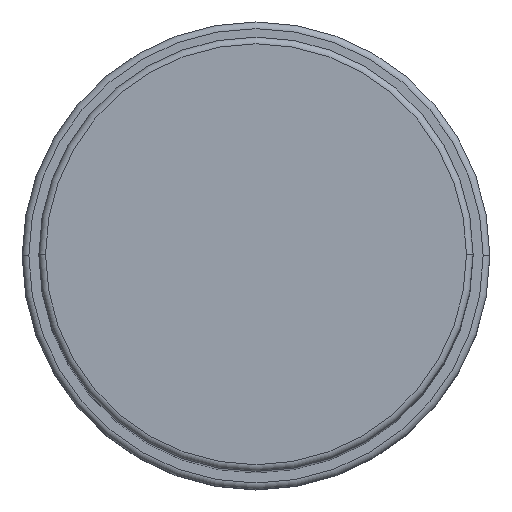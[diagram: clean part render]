
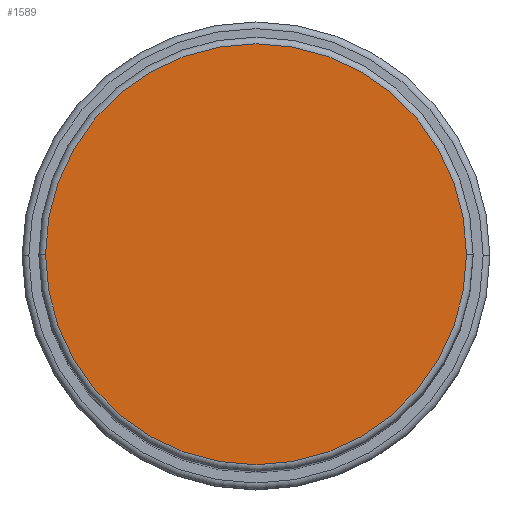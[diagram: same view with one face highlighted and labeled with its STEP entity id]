
A CAD part, top view. The second image highlights one B-rep face of the part: STEP entity #1589.
In plain terms, the highlighted planar face has unit normal (0, 0, 1).
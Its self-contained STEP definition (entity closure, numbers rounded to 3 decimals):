
#35 = CIRCLE ( 'NONE', #1031, 31.5 ) ;
#161 = AXIS2_PLACEMENT_3D ( 'NONE', #162, #1114, #882 ) ;
#162 = CARTESIAN_POINT ( 'NONE',  ( 0., 0., 148. ) ) ;
#186 = VERTEX_POINT ( 'NONE', #1639 ) ;
#215 = EDGE_LOOP ( 'NONE', ( #265, #669 ) ) ;
#265 = ORIENTED_EDGE ( 'NONE', *, *, #838, .T. ) ;
#290 = CIRCLE ( 'NONE', #161, 31.5 ) ;
#372 = FACE_OUTER_BOUND ( 'NONE', #215, .T. ) ;
#429 = DIRECTION ( 'NONE',  ( 0., 0., 1. ) ) ;
#669 = ORIENTED_EDGE ( 'NONE', *, *, #1507, .T. ) ;
#703 = DIRECTION ( 'NONE',  ( 1., 0., 0. ) ) ;
#765 = CARTESIAN_POINT ( 'NONE',  ( 31.5, 0., 148. ) ) ;
#838 = EDGE_CURVE ( 'NONE', #1299, #186, #35, .T. ) ;
#882 = DIRECTION ( 'NONE',  ( 1., 0., 0. ) ) ;
#1010 = PLANE ( 'NONE',  #1655 ) ;
#1031 = AXIS2_PLACEMENT_3D ( 'NONE', #1488, #429, #703 ) ;
#1114 = DIRECTION ( 'NONE',  ( 0., 0., 1. ) ) ;
#1284 = DIRECTION ( 'NONE',  ( 1., 0., 0. ) ) ;
#1299 = VERTEX_POINT ( 'NONE', #765 ) ;
#1488 = CARTESIAN_POINT ( 'NONE',  ( 0., 0., 148. ) ) ;
#1507 = EDGE_CURVE ( 'NONE', #186, #1299, #290, .T. ) ;
#1549 = CARTESIAN_POINT ( 'NONE',  ( 0., 0., 148. ) ) ;
#1589 = ADVANCED_FACE ( 'NONE', ( #372 ), #1010, .T. ) ;
#1639 = CARTESIAN_POINT ( 'NONE',  ( -31.5, 0., 148. ) ) ;
#1655 = AXIS2_PLACEMENT_3D ( 'NONE', #1549, #1687, #1284 ) ;
#1687 = DIRECTION ( 'NONE',  ( 0., 0., 1. ) ) ;
